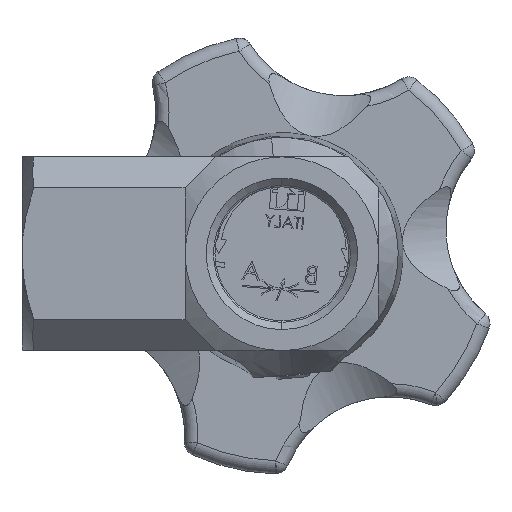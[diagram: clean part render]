
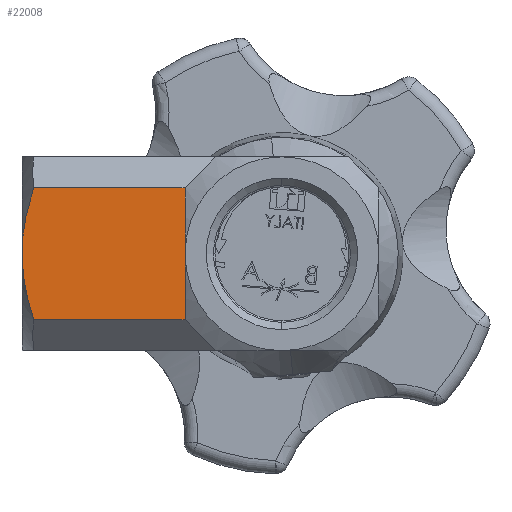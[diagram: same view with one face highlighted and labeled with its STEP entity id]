
A CAD part, front view. The second image highlights one B-rep face of the part: STEP entity #22008.
In plain terms, the highlighted planar face has unit normal (0, -1, 0).
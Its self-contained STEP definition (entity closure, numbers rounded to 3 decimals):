
#174 = CARTESIAN_POINT ( 'NONE',  ( -28.894, -11., 5.058 ) ) ;
#631 = B_SPLINE_CURVE_WITH_KNOTS ( 'NONE', 3,
 ( #33335, #2380, #23167, #25745, #10312, #28363 ),
 .UNSPECIFIED., .F., .F.,
 ( 4, 2, 4 ),
 ( 0.036, 0.04, 0.043 ),
 .UNSPECIFIED. ) ;
#939 = DIRECTION ( 'NONE',  ( 1., 0., 0. ) ) ;
#2380 = CARTESIAN_POINT ( 'NONE',  ( -29.5, -11., -1.278 ) ) ;
#2464 = CARTESIAN_POINT ( 'NONE',  ( -29.5, -11., 0. ) ) ;
#2633 = LINE ( 'NONE', #13846, #8693 ) ;
#2765 = CARTESIAN_POINT ( 'NONE',  ( -29.341, -11., 2.555 ) ) ;
#4589 = FACE_OUTER_BOUND ( 'NONE', #8935, .T. ) ;
#5082 = ORIENTED_EDGE ( 'NONE', *, *, #15199, .T. ) ;
#5362 = CARTESIAN_POINT ( 'NONE',  ( -29.5, -11., 0.638 ) ) ;
#6239 = CARTESIAN_POINT ( 'NONE',  ( -28.164, -11., 7.5 ) ) ;
#7867 = CARTESIAN_POINT ( 'NONE',  ( -28.559, -11., 6.285 ) ) ;
#8693 = VECTOR ( 'NONE', #939, 1000. ) ;
#8794 = DIRECTION ( 'NONE',  ( 0., -1., 0. ) ) ;
#8935 = EDGE_LOOP ( 'NONE', ( #5082, #29327, #19679, #19756, #27518 ) ) ;
#9196 = VERTEX_POINT ( 'NONE', #12182 ) ;
#10312 = CARTESIAN_POINT ( 'NONE',  ( -28.559, -11., -6.287 ) ) ;
#10748 = VECTOR ( 'NONE', #27205, 1000. ) ;
#12182 = CARTESIAN_POINT ( 'NONE',  ( -11., -11., 7.5 ) ) ;
#12597 = CARTESIAN_POINT ( 'NONE',  ( -11., -11., -7.5 ) ) ;
#13166 = VERTEX_POINT ( 'NONE', #12597 ) ;
#13846 = CARTESIAN_POINT ( 'NONE',  ( -11., -11., -7.5 ) ) ;
#14377 = CARTESIAN_POINT ( 'NONE',  ( -29.5, -11., 7.5 ) ) ;
#14850 = EDGE_CURVE ( 'NONE', #23568, #31765, #631, .T. ) ;
#15199 = EDGE_CURVE ( 'NONE', #9196, #21514, #17638, .T. ) ;
#15354 = CARTESIAN_POINT ( 'NONE',  ( -11., -11., -11. ) ) ;
#17638 = LINE ( 'NONE', #14377, #10748 ) ;
#18279 = CARTESIAN_POINT ( 'NONE',  ( -29.248, -11., 3.185 ) ) ;
#18371 = AXIS2_PLACEMENT_3D ( 'NONE', #24256, #8794, #26875 ) ;
#19679 = ORIENTED_EDGE ( 'NONE', *, *, #14850, .T. ) ;
#19756 = ORIENTED_EDGE ( 'NONE', *, *, #22973, .T. ) ;
#20882 = CARTESIAN_POINT ( 'NONE',  ( -29.467, -11., 1.283 ) ) ;
#21514 = VERTEX_POINT ( 'NONE', #6239 ) ;
#21972 = LINE ( 'NONE', #15354, #28021 ) ;
#22008 = ADVANCED_FACE ( 'NONE', ( #4589 ), #29340, .T. ) ;
#22433 = EDGE_CURVE ( 'NONE', #9196, #13166, #21972, .T. ) ;
#22973 = EDGE_CURVE ( 'NONE', #31765, #13166, #2633, .T. ) ;
#23167 = CARTESIAN_POINT ( 'NONE',  ( -29.369, -11., -2.541 ) ) ;
#23428 = CARTESIAN_POINT ( 'NONE',  ( -29.5, -11., 0. ) ) ;
#23568 = VERTEX_POINT ( 'NONE', #2464 ) ;
#24064 = EDGE_CURVE ( 'NONE', #21514, #23568, #28298, .T. ) ;
#24256 = CARTESIAN_POINT ( 'NONE',  ( -29.5, -11., 11. ) ) ;
#24447 = CARTESIAN_POINT ( 'NONE',  ( -28.164, -11., -7.5 ) ) ;
#25745 = CARTESIAN_POINT ( 'NONE',  ( -28.898, -11., -5.043 ) ) ;
#25881 = CARTESIAN_POINT ( 'NONE',  ( -28.164, -11., 7.5 ) ) ;
#26875 = DIRECTION ( 'NONE',  ( 0., 0., -1. ) ) ;
#27205 = DIRECTION ( 'NONE',  ( -1., 0., 0. ) ) ;
#27518 = ORIENTED_EDGE ( 'NONE', *, *, #22433, .F. ) ;
#28021 = VECTOR ( 'NONE', #30918, 1000. ) ;
#28298 = B_SPLINE_CURVE_WITH_KNOTS ( 'NONE', 3,
 ( #25881, #7867, #174, #18279, #2765, #20882, #5362, #23428 ),
 .UNSPECIFIED., .F., .F.,
 ( 4, 2, 2, 4 ),
 ( 0.028, 0.032, 0.034, 0.036 ),
 .UNSPECIFIED. ) ;
#28363 = CARTESIAN_POINT ( 'NONE',  ( -28.164, -11., -7.5 ) ) ;
#29327 = ORIENTED_EDGE ( 'NONE', *, *, #24064, .T. ) ;
#29340 = PLANE ( 'NONE',  #18371 ) ;
#30918 = DIRECTION ( 'NONE',  ( 0., 0., -1. ) ) ;
#31765 = VERTEX_POINT ( 'NONE', #24447 ) ;
#33335 = CARTESIAN_POINT ( 'NONE',  ( -29.5, -11., 0. ) ) ;
